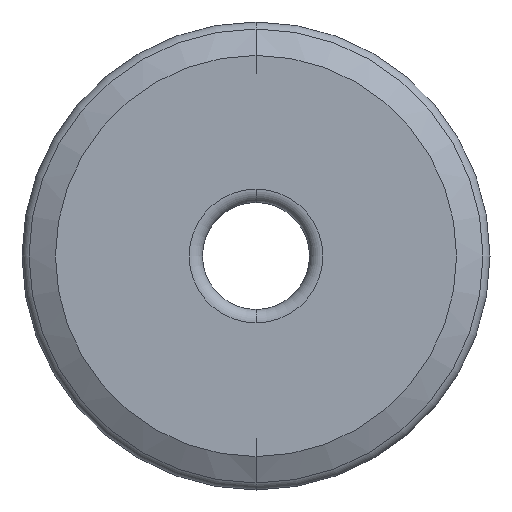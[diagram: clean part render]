
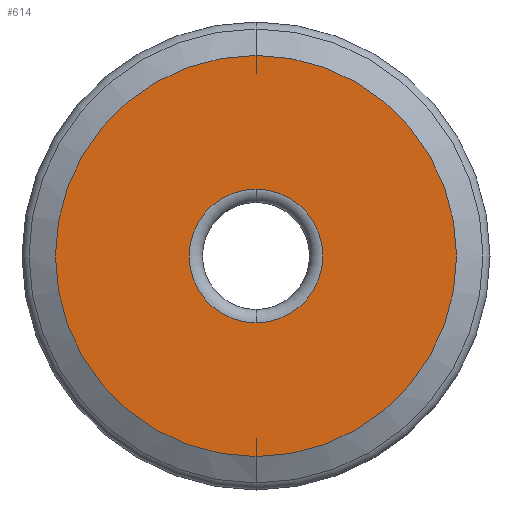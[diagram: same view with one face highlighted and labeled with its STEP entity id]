
A CAD part, front view. The second image highlights one B-rep face of the part: STEP entity #614.
In plain terms, the highlighted planar face has unit normal (0, -1, 0).
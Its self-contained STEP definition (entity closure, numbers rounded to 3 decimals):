
#5 = CARTESIAN_POINT ( 'NONE',  ( 0., 0., 0. ) ) ;
#7 = DIRECTION ( 'NONE',  ( 0., -1., 0. ) ) ;
#11 = DIRECTION ( 'NONE',  ( 0., 0., -1. ) ) ;
#16 = DIRECTION ( 'NONE',  ( 0., -1., 0. ) ) ;
#18 = DIRECTION ( 'NONE',  ( 0., 0., -1. ) ) ;
#28 = VERTEX_POINT ( 'NONE', #654 ) ;
#30 = PLANE ( 'NONE',  #645 ) ;
#41 = ORIENTED_EDGE ( 'NONE', *, *, #383, .T. ) ;
#47 = CARTESIAN_POINT ( 'NONE',  ( 0., 0., 0. ) ) ;
#144 = CIRCLE ( 'NONE', #723, 1. ) ;
#172 = ORIENTED_EDGE ( 'NONE', *, *, #609, .T. ) ;
#175 = EDGE_LOOP ( 'NONE', ( #717, #524 ) ) ;
#221 = CARTESIAN_POINT ( 'NONE',  ( 0., 0., -1. ) ) ;
#245 = CARTESIAN_POINT ( 'NONE',  ( 0., 0., -3. ) ) ;
#247 = CARTESIAN_POINT ( 'NONE',  ( 0., 0., 0. ) ) ;
#256 = FACE_OUTER_BOUND ( 'NONE', #495, .T. ) ;
#267 = EDGE_CURVE ( 'NONE', #419, #531, #732, .T. ) ;
#310 = CARTESIAN_POINT ( 'NONE',  ( 3., 0., 0. ) ) ;
#333 = VERTEX_POINT ( 'NONE', #245 ) ;
#336 = CARTESIAN_POINT ( 'NONE',  ( 0., 0., 0. ) ) ;
#345 = FACE_BOUND ( 'NONE', #175, .T. ) ;
#383 = EDGE_CURVE ( 'NONE', #333, #28, #683, .T. ) ;
#419 = VERTEX_POINT ( 'NONE', #221 ) ;
#433 = CARTESIAN_POINT ( 'NONE',  ( 0., 0., 1. ) ) ;
#481 = DIRECTION ( 'NONE',  ( 0., -1., 0. ) ) ;
#483 = AXIS2_PLACEMENT_3D ( 'NONE', #5, #7, #11 ) ;
#495 = EDGE_LOOP ( 'NONE', ( #41, #172 ) ) ;
#498 = DIRECTION ( 'NONE',  ( 0., 0., -1. ) ) ;
#524 = ORIENTED_EDGE ( 'NONE', *, *, #633, .F. ) ;
#531 = VERTEX_POINT ( 'NONE', #433 ) ;
#555 = AXIS2_PLACEMENT_3D ( 'NONE', #47, #481, #498 ) ;
#571 = DIRECTION ( 'NONE',  ( 0., 0., -1. ) ) ;
#595 = DIRECTION ( 'NONE',  ( 0., -1., 0. ) ) ;
#602 = CIRCLE ( 'NONE', #483, 3. ) ;
#609 = EDGE_CURVE ( 'NONE', #28, #333, #602, .T. ) ;
#614 = ADVANCED_FACE ( 'NONE', ( #256, #345 ), #30, .T. ) ;
#620 = AXIS2_PLACEMENT_3D ( 'NONE', #247, #706, #751 ) ;
#633 = EDGE_CURVE ( 'NONE', #531, #419, #144, .T. ) ;
#645 = AXIS2_PLACEMENT_3D ( 'NONE', #310, #16, #18 ) ;
#654 = CARTESIAN_POINT ( 'NONE',  ( 0., 0., 3. ) ) ;
#683 = CIRCLE ( 'NONE', #620, 3. ) ;
#706 = DIRECTION ( 'NONE',  ( 0., -1., 0. ) ) ;
#717 = ORIENTED_EDGE ( 'NONE', *, *, #267, .F. ) ;
#723 = AXIS2_PLACEMENT_3D ( 'NONE', #336, #595, #571 ) ;
#732 = CIRCLE ( 'NONE', #555, 1. ) ;
#751 = DIRECTION ( 'NONE',  ( 0., 0., -1. ) ) ;
